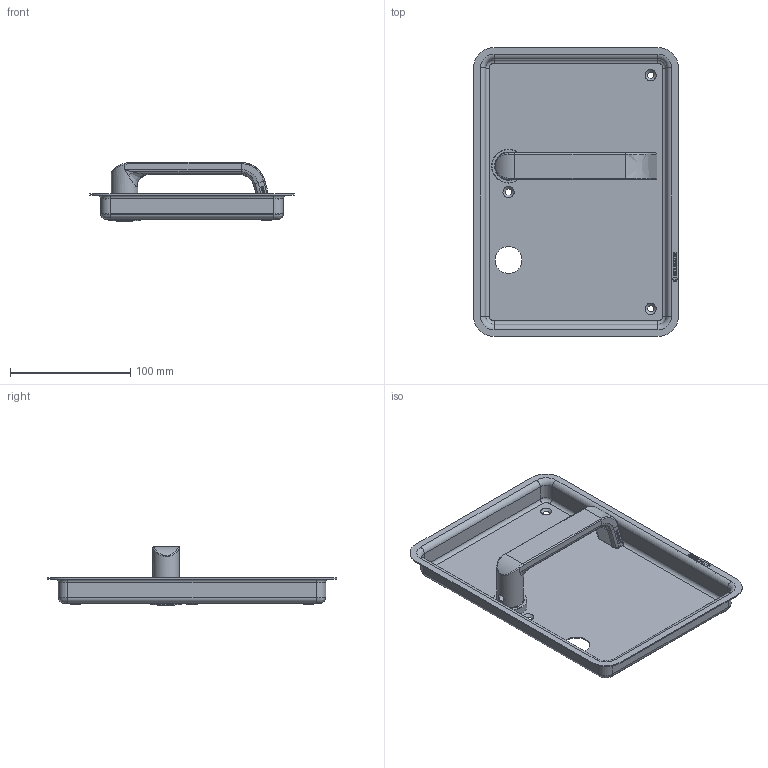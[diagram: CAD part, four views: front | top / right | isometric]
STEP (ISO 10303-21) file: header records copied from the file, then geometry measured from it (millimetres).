
FILE_DESCRIPTION(/* description */ (''),/* implementation_level */ '2;1');
FILE_NAME(/* name */ 'C:\ADSK_DMS_WS\Designs\Vorschläge\Loc Schalen\Muschel Serie 3\S3.20.D2\Heusser-Muschel S3.20.D2.278R.stp',/* time_stamp */ '2020-11-21T13:09:16+01:00',/* author */ ('gm'),/* organization */ (''),/* preprocessor_version */ 'ST-DEVELOPER v16.5',/* originating_system */ 'Autodesk Inventor 2017',/* authorisation */ '');
FILE_SCHEMA (('AUTOMOTIVE_DESIGN { 1 0 10303 214 3 1 1 }'));
Length unit declared in the file: millimetre
Products named in the file (1): S3.20.D2
Bounding box: 170 x 240 x 49 mm (x, y, z)
Volume: 94930.2 mm3; surface area: 120052.1 mm2
Topology: 1 solids, 2 shells, 610 faces, 1597 edges, 1033 vertices
Faces by surface type: plane 294, bspline 212, cylinder 71, torus 17, cone 16
Full cylindrical faces by diameter (mm): 1.7 x2, 6 x1, 16 x3, 18 x1, 19 x1, 19.1 x1, 22 x1, 22.3 x1, 23 x1, 23.2 x1, 24 x1, 25 x1, 26 x1, 28 x1
Entity records: 20851 total; most frequent: CARTESIAN_POINT 6394, ORIENTED_EDGE 3110, DIRECTION 2317, EDGE_CURVE 1555, VERTEX_POINT 1028, LINE 955, VECTOR 955, EDGE_LOOP 705
